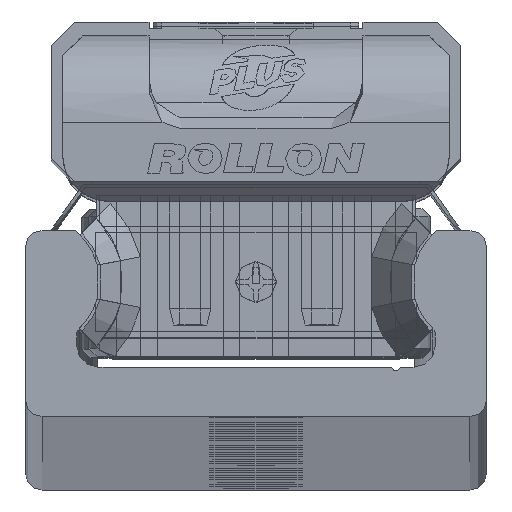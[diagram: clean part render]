
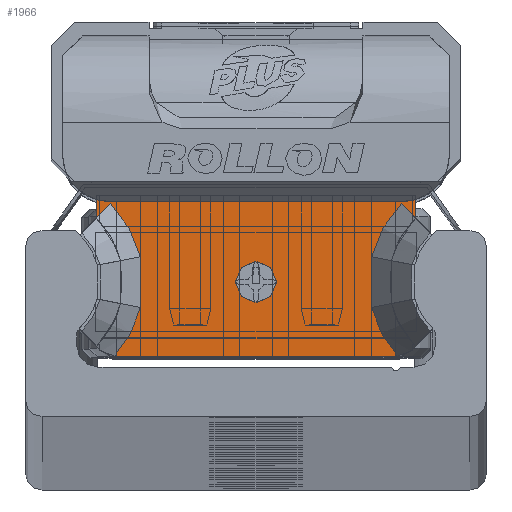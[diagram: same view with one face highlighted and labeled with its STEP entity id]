
A CAD part, top view. The second image highlights one B-rep face of the part: STEP entity #1966.
In plain terms, the highlighted planar face has unit normal (0, 0, 1) as drawn and (0, 0, -1) by its records, which use the part's own axes.
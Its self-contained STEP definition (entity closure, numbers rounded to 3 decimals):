
#1966 = ADVANCED_FACE( '', ( #4235, #4236 ), #4237, .F. );
#4235 = FACE_BOUND( '', #6685, .T. );
#4236 = FACE_OUTER_BOUND( '', #6686, .T. );
#4237 = PLANE( '', #6687 );
#6685 = EDGE_LOOP( '', ( #12029 ) );
#6686 = EDGE_LOOP( '', ( #12030, #12031, #12032, #12033, #12034, #12035, #12036, #12037, #12038, #12039, #12040, #12041, #12042, #12043 ) );
#6687 = AXIS2_PLACEMENT_3D( '', #12044, #12045, #12046 );
#12029 = ORIENTED_EDGE( '', *, *, #13701, .T. );
#12030 = ORIENTED_EDGE( '', *, *, #15166, .F. );
#12031 = ORIENTED_EDGE( '', *, *, #14850, .T. );
#12032 = ORIENTED_EDGE( '', *, *, #13369, .T. );
#12033 = ORIENTED_EDGE( '', *, *, #14602, .T. );
#12034 = ORIENTED_EDGE( '', *, *, #15167, .T. );
#12035 = ORIENTED_EDGE( '', *, *, #14630, .T. );
#12036 = ORIENTED_EDGE( '', *, *, #15125, .T. );
#12037 = ORIENTED_EDGE( '', *, *, #14822, .T. );
#12038 = ORIENTED_EDGE( '', *, *, #15168, .T. );
#12039 = ORIENTED_EDGE( '', *, *, #14939, .T. );
#12040 = ORIENTED_EDGE( '', *, *, #13845, .T. );
#12041 = ORIENTED_EDGE( '', *, *, #13468, .T. );
#12042 = ORIENTED_EDGE( '', *, *, #14541, .T. );
#12043 = ORIENTED_EDGE( '', *, *, #14949, .T. );
#12044 = CARTESIAN_POINT( '', ( 9.7, 4.89, -10.6 ) );
#12045 = DIRECTION( '', ( 0., 0., 1. ) );
#12046 = DIRECTION( '', ( 1., 0., 0. ) );
#13369 = EDGE_CURVE( '', #15907, #15911, #15913, .T. );
#13468 = EDGE_CURVE( '', #16081, #16079, #16082, .T. );
#13701 = EDGE_CURVE( '', #16478, #16478, #16479, .T. );
#13845 = EDGE_CURVE( '', #16725, #16081, #16729, .T. );
#14541 = EDGE_CURVE( '', #16079, #17788, #17789, .T. );
#14602 = EDGE_CURVE( '', #15911, #17873, #17875, .T. );
#14630 = EDGE_CURVE( '', #16845, #17910, #17912, .T. );
#14822 = EDGE_CURVE( '', #18172, #18170, #18173, .T. );
#14850 = EDGE_CURVE( '', #18207, #15907, #18208, .T. );
#14939 = EDGE_CURVE( '', #16468, #16725, #18310, .T. );
#14949 = EDGE_CURVE( '', #17788, #18165, #18323, .T. );
#15125 = EDGE_CURVE( '', #17910, #18172, #18525, .T. );
#15166 = EDGE_CURVE( '', #18207, #18165, #18571, .T. );
#15167 = EDGE_CURVE( '', #17873, #16845, #18572, .T. );
#15168 = EDGE_CURVE( '', #18170, #16468, #18573, .T. );
#15907 = VERTEX_POINT( '', #19498 );
#15911 = VERTEX_POINT( '', #19504 );
#15913 = LINE( '', #19507, #19508 );
#16079 = VERTEX_POINT( '', #19725 );
#16081 = VERTEX_POINT( '', #19728 );
#16082 = B_SPLINE_CURVE_WITH_KNOTS( '', 2, ( #19729, #19730, #19731 ), .UNSPECIFIED., .F., .F., ( 3, 3 ), ( 0., 1. ), .UNSPECIFIED. );
#16468 = VERTEX_POINT( '', #20324 );
#16478 = VERTEX_POINT( '', #20341 );
#16479 = CIRCLE( '', #20342, 1.25 );
#16725 = VERTEX_POINT( '', #20703 );
#16729 = B_SPLINE_CURVE_WITH_KNOTS( '', 2, ( #20718, #20719, #20720 ), .UNSPECIFIED., .F., .F., ( 3, 3 ), ( 0.1, 1. ), .UNSPECIFIED. );
#16845 = VERTEX_POINT( '', #20880 );
#17788 = VERTEX_POINT( '', #22223 );
#17789 = B_SPLINE_CURVE_WITH_KNOTS( '', 2, ( #22224, #22225, #22226 ), .UNSPECIFIED., .F., .F., ( 3, 3 ), ( 0., 1. ), .UNSPECIFIED. );
#17873 = VERTEX_POINT( '', #22339 );
#17875 = CIRCLE( '', #22342, 2.8 );
#17910 = VERTEX_POINT( '', #22388 );
#17912 = LINE( '', #22391, #22392 );
#18165 = VERTEX_POINT( '', #22762 );
#18170 = VERTEX_POINT( '', #22771 );
#18172 = VERTEX_POINT( '', #22774 );
#18173 = B_SPLINE_CURVE_WITH_KNOTS( '', 2, ( #22775, #22776, #22777 ), .UNSPECIFIED., .F., .F., ( 3, 3 ), ( 0., 1. ), .UNSPECIFIED. );
#18207 = VERTEX_POINT( '', #22824 );
#18208 = CIRCLE( '', #22825, 2.8 );
#18310 = LINE( '', #22958, #22959 );
#18323 = LINE( '', #22975, #22976 );
#18525 = B_SPLINE_CURVE_WITH_KNOTS( '', 2, ( #23287, #23288, #23289, #23290, #23291 ), .UNSPECIFIED., .F., .F., ( 3, 2, 3 ), ( 0., 0.5, 1. ), .UNSPECIFIED. );
#18571 = LINE( '', #23348, #23349 );
#18572 = LINE( '', #23350, #23351 );
#18573 = B_SPLINE_CURVE_WITH_KNOTS( '', 2, ( #23352, #23353, #23354 ), .UNSPECIFIED., .F., .F., ( 3, 3 ), ( 0., 1. ), .UNSPECIFIED. );
#19498 = CARTESIAN_POINT( '', ( -8.95, 4.51, -10.6 ) );
#19504 = CARTESIAN_POINT( '', ( 8.95, 4.51, -10.6 ) );
#19507 = CARTESIAN_POINT( '', ( 9.7, 4.51, -10.6 ) );
#19508 = VECTOR( '', #24054, 1000. );
#19725 = CARTESIAN_POINT( '', ( -7.031, 1.144, -10.6 ) );
#19728 = CARTESIAN_POINT( '', ( -7.031, -1.944, -10.6 ) );
#19729 = CARTESIAN_POINT( '', ( -7.031, -1.944, -10.6 ) );
#19730 = CARTESIAN_POINT( '', ( -6.929, -0.4, -10.6 ) );
#19731 = CARTESIAN_POINT( '', ( -7.031, 1.144, -10.6 ) );
#20324 = CARTESIAN_POINT( '', ( 8.59, -4.893, -10.6 ) );
#20341 = CARTESIAN_POINT( '', ( 1.25, -0.39, -10.6 ) );
#20342 = AXIS2_PLACEMENT_3D( '', #24469, #24470, #24471 );
#20703 = CARTESIAN_POINT( '', ( -8.59, -4.893, -10.6 ) );
#20718 = CARTESIAN_POINT( '', ( -8.587, -4.89, -10.6 ) );
#20719 = CARTESIAN_POINT( '', ( -7.432, -3.63, -10.6 ) );
#20720 = CARTESIAN_POINT( '', ( -7.031, -1.944, -10.6 ) );
#20880 = CARTESIAN_POINT( '', ( 9.7, 3.497, -10.6 ) );
#22223 = CARTESIAN_POINT( '', ( -8.853, 4.366, -10.6 ) );
#22224 = CARTESIAN_POINT( '', ( -7.031, 1.144, -10.6 ) );
#22225 = CARTESIAN_POINT( '', ( -7.477, 3.018, -10.6 ) );
#22226 = CARTESIAN_POINT( '', ( -8.853, 4.366, -10.6 ) );
#22339 = CARTESIAN_POINT( '', ( 9.7, 4.612, -10.6 ) );
#22342 = AXIS2_PLACEMENT_3D( '', #25760, #25761, #25762 );
#22388 = CARTESIAN_POINT( '', ( 8.853, 4.366, -10.6 ) );
#22391 = CARTESIAN_POINT( '', ( 9.7, 3.501, -10.6 ) );
#22392 = VECTOR( '', #25789, 1000. );
#22762 = CARTESIAN_POINT( '', ( -9.7, 3.494, -10.6 ) );
#22771 = CARTESIAN_POINT( '', ( 7.031, -1.944, -10.6 ) );
#22774 = CARTESIAN_POINT( '', ( 7.031, 1.144, -10.6 ) );
#22775 = CARTESIAN_POINT( '', ( 7.031, 1.144, -10.6 ) );
#22776 = CARTESIAN_POINT( '', ( 6.929, -0.4, -10.6 ) );
#22777 = CARTESIAN_POINT( '', ( 7.031, -1.944, -10.6 ) );
#22824 = CARTESIAN_POINT( '', ( -9.7, 4.612, -10.6 ) );
#22825 = AXIS2_PLACEMENT_3D( '', #26021, #26022, #26023 );
#22958 = CARTESIAN_POINT( '', ( 9.7, -4.89, -10.6 ) );
#22959 = VECTOR( '', #26114, 1000. );
#22975 = CARTESIAN_POINT( '', ( -8.853, 4.366, -10.6 ) );
#22976 = VECTOR( '', #26123, 1000. );
#23287 = CARTESIAN_POINT( '', ( 8.853, 4.366, -10.6 ) );
#23288 = CARTESIAN_POINT( '', ( 8.182, 3.708, -10.6 ) );
#23289 = CARTESIAN_POINT( '', ( 7.715, 2.883, -10.6 ) );
#23290 = CARTESIAN_POINT( '', ( 7.249, 2.058, -10.6 ) );
#23291 = CARTESIAN_POINT( '', ( 7.031, 1.144, -10.6 ) );
#23348 = CARTESIAN_POINT( '', ( -9.7, 4.89, -10.6 ) );
#23349 = VECTOR( '', #26313, 1000. );
#23350 = CARTESIAN_POINT( '', ( 9.7, 4.89, -10.6 ) );
#23351 = VECTOR( '', #26314, 1000. );
#23352 = CARTESIAN_POINT( '', ( 7.031, -1.944, -10.6 ) );
#23353 = CARTESIAN_POINT( '', ( 7.429, -3.615, -10.6 ) );
#23354 = CARTESIAN_POINT( '', ( 8.588, -4.89, -10.6 ) );
#24054 = DIRECTION( '', ( 1., 0., 0. ) );
#24469 = CARTESIAN_POINT( '', ( 0., -0.39, -10.6 ) );
#24470 = DIRECTION( '', ( 0., 0., 1. ) );
#24471 = DIRECTION( '', ( 1., 0., 0. ) );
#25760 = CARTESIAN_POINT( '', ( 8.95, 7.31, -10.6 ) );
#25761 = DIRECTION( '', ( 0., 0., 1. ) );
#25762 = DIRECTION( '', ( 1., 0., 0. ) );
#25789 = DIRECTION( '', ( -0.7, 0.714, 0. ) );
#26021 = CARTESIAN_POINT( '', ( -8.95, 7.31, -10.6 ) );
#26022 = DIRECTION( '', ( 0., 0., 1. ) );
#26023 = DIRECTION( '', ( 1., 0., 0. ) );
#26114 = DIRECTION( '', ( -1., 0., 0. ) );
#26123 = DIRECTION( '', ( -0.7, -0.714, 0. ) );
#26313 = DIRECTION( '', ( 0., -1., 0. ) );
#26314 = DIRECTION( '', ( 0., -1., 0. ) );
